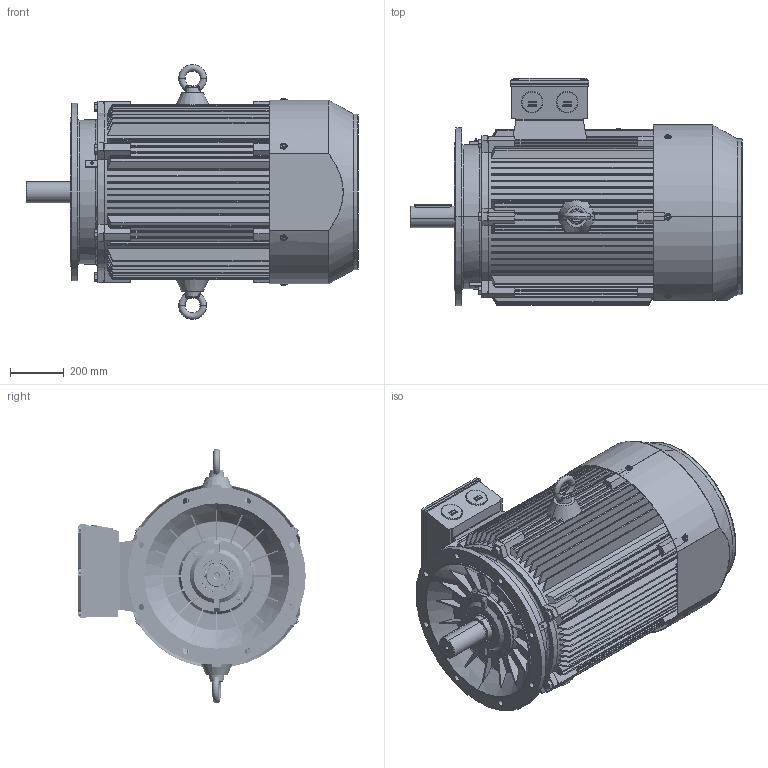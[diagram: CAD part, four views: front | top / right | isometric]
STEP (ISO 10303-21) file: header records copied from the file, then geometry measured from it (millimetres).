
FILE_DESCRIPTION (( 'STEP AP203' ), '1' );
FILE_NAME ('TC 315S-4 B5 俋倛芞.STEP', '2013-11-05T00:59:07', ( '123' ), ( 'top' ), 'SwSTEP 2.0', 'SolidWorks 2008', '' );
FILE_SCHEMA (( 'CONFIG_CONTROL_DESIGN' ));
Products named in the file (22): TC 315S 机座 B5_默认; TC 315接线盒座_默认; TC 315接线盒盖_默认; 铜油嘴_默认; ｷ釁ﾖﾂﾝｶ､ｼﾓｵ貳ｬ_ﾄｬﾈﾏ; 油封120-95-12_默认; TC 315铭牌_默认; TX315接线盒座垫_默认; TX315接线盒座、盖垫_默认; TC 315S-4 B5 俋倛芞; TC 315-4 B5法兰_默认; TC 315-4 B3后端盖_默认; TC 315-4轴承外盖_默认; TC 315S-4转轴_默认; TC 315-4风叶_默认; TC 315-4风罩_默认; 吊环M30_默认; 扣塞_默认; M20-70_默认; M10-90_默认; M63螺塞_默认; M10-25_默认
Assembly tree (42 placements, depth 2):
  TC 315S-4 B5 俋倛芞
    TC 315-4风叶_默认
    M20-70_默认  x6
    M10-25_默认  x6
    TC 315接线盒盖_默认
    ｷ釁ﾖﾂﾝｶ､ｼﾓｵ貳ｬ_ﾄｬﾈﾏ  x6
    TC 315S-4转轴_默认
    吊环M30_默认  x2
    M10-90_默认  x4
    TX315接线盒座垫_默认
    TC 315-4 B5法兰_默认
    扣塞_默认
    TC 315接线盒座_默认
    铜油嘴_默认
    TC 315S 机座 B5_默认
    TC 315-4 B3后端盖_默认
    TC 315-4轴承外盖_默认  x2
    TC 315-4风罩_默认
    TX315接线盒座、盖垫_默认
    M63螺塞_默认  x2
    油封120-95-12_默认
    TC 315铭牌_默认
Bounding box: 1232 x 844 x 946 mm (x, y, z)
Volume: 95893939.7 mm3; surface area: 12195607.5 mm2
Topology: 43 solids, 43 shells, 7722 faces, 21765 edges, 14278 vertices
Faces by surface type: plane 5638, cylinder 870, cone 452, torus 403, bspline 205, sphere 154
Entity records: 261763 total; most frequent: CARTESIAN_POINT 72100, ORIENTED_EDGE 40574, DIRECTION 34547, EDGE_CURVE 20287, VECTOR 15273, LINE 15273, VERTEX_POINT 13359, AXIS2_PLACEMENT_3D 9637
